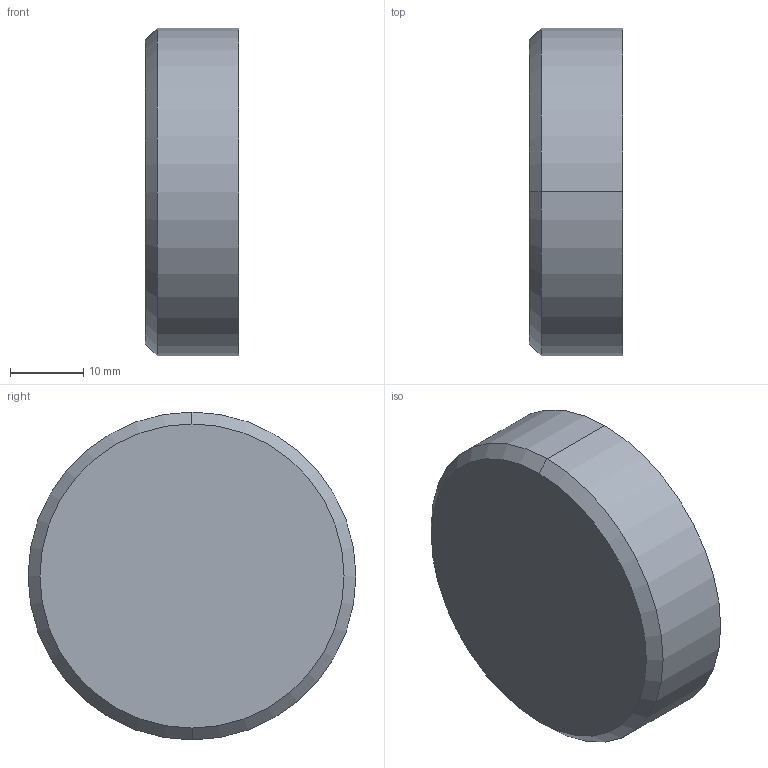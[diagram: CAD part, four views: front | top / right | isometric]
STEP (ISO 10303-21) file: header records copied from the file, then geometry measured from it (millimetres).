
FILE_DESCRIPTION (( 'STEP AP214' ), '1' );
FILE_NAME ('60l-cap-check-plug.STEP', '2012-11-12T17:23:27', ( '' ), ( '' ), 'SwSTEP 2.0', 'SolidWorks 2012', '' );
FILE_SCHEMA (( 'AUTOMOTIVE_DESIGN' ));
Length unit declared in the file: inch
Products named in the file (1): 60l-cap-check-plug
Bounding box: 12.73 x 44.7 x 44.7 mm (x, y, z)
Volume: 19469 mm3; surface area: 5185.5 mm2
Topology: 1 solids, 1 shells, 18 faces, 34 edges, 22 vertices
Faces by surface type: cylinder 10, plane 6, cone 2
Entity records: 543 total; most frequent: DIRECTION 94, CARTESIAN_POINT 75, ORIENTED_EDGE 68, AXIS2_PLACEMENT_3D 41, EDGE_CURVE 34, VERTEX_POINT 22, EDGE_LOOP 22, CIRCLE 22
